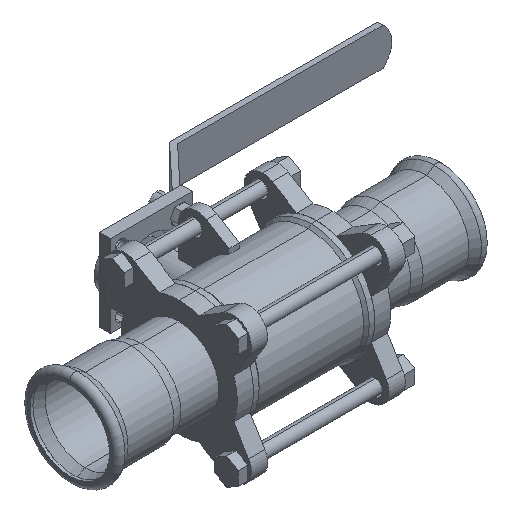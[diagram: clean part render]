
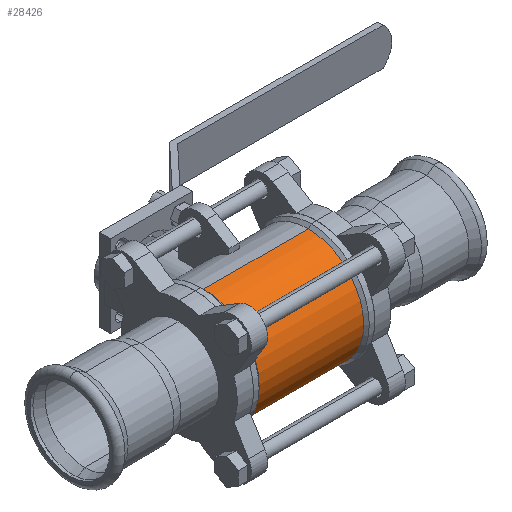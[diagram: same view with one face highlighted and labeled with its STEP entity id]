
A CAD part, isometric view. The second image highlights one B-rep face of the part: STEP entity #28426.
In plain terms, the highlighted cylindrical face has radius 29.65 mm (diameter 59.3 mm), a partial arc.
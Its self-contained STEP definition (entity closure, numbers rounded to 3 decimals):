
#708 = LINE ( 'NONE', #11077, #36738 ) ;
#916 = LINE ( 'NONE', #27312, #25648 ) ;
#1361 = DIRECTION ( 'NONE',  ( -1., 0., 0. ) ) ;
#2628 = DIRECTION ( 'NONE',  ( -1., 0., 0. ) ) ;
#3249 = DIRECTION ( 'NONE',  ( 0., 0., 1. ) ) ;
#5960 = ORIENTED_EDGE ( 'NONE', *, *, #7806, .F. ) ;
#6075 = DIRECTION ( 'NONE',  ( 0., 0., 1. ) ) ;
#6496 = CARTESIAN_POINT ( 'NONE',  ( 0., 0., 0. ) ) ;
#6983 = ORIENTED_EDGE ( 'NONE', *, *, #22141, .F. ) ;
#7328 = VERTEX_POINT ( 'NONE', #13951 ) ;
#7806 = EDGE_CURVE ( 'NONE', #24711, #25876, #708, .T. ) ;
#8066 = DIRECTION ( 'NONE',  ( 0., 0., 1. ) ) ;
#9518 = CARTESIAN_POINT ( 'NONE',  ( 28., 0., 0. ) ) ;
#11077 = CARTESIAN_POINT ( 'NONE',  ( 0., 0., -29.65 ) ) ;
#11279 = DIRECTION ( 'NONE',  ( -1., 0., 0. ) ) ;
#13212 = EDGE_LOOP ( 'NONE', ( #5960, #38470, #39130, #6983 ) ) ;
#13951 = CARTESIAN_POINT ( 'NONE',  ( 28., 0., 29.65 ) ) ;
#15203 = CARTESIAN_POINT ( 'NONE',  ( -28., 0., 0. ) ) ;
#15871 = CARTESIAN_POINT ( 'NONE',  ( 28., 0., -29.65 ) ) ;
#16327 = EDGE_CURVE ( 'NONE', #24711, #7328, #30406, .T. ) ;
#16434 = FACE_OUTER_BOUND ( 'NONE', #13212, .T. ) ;
#17135 = DIRECTION ( 'NONE',  ( -1., 0., 0. ) ) ;
#17592 = CIRCLE ( 'NONE', #18297, 29.65 ) ;
#17789 = EDGE_CURVE ( 'NONE', #7328, #23550, #916, .T. ) ;
#18297 = AXIS2_PLACEMENT_3D ( 'NONE', #15203, #1361, #8066 ) ;
#20497 = AXIS2_PLACEMENT_3D ( 'NONE', #6496, #2628, #3249 ) ;
#22141 = EDGE_CURVE ( 'NONE', #25876, #23550, #17592, .T. ) ;
#23550 = VERTEX_POINT ( 'NONE', #25246 ) ;
#24711 = VERTEX_POINT ( 'NONE', #15871 ) ;
#25246 = CARTESIAN_POINT ( 'NONE',  ( -28., 0., 29.65 ) ) ;
#25648 = VECTOR ( 'NONE', #11279, 1000. ) ;
#25876 = VERTEX_POINT ( 'NONE', #33066 ) ;
#25972 = CYLINDRICAL_SURFACE ( 'NONE', #20497, 29.65 ) ;
#25977 = DIRECTION ( 'NONE',  ( -1., 0., 0. ) ) ;
#27312 = CARTESIAN_POINT ( 'NONE',  ( 0., 0., 29.65 ) ) ;
#28426 = ADVANCED_FACE ( 'NONE', ( #16434 ), #25972, .T. ) ;
#30406 = CIRCLE ( 'NONE', #34497, 29.65 ) ;
#33066 = CARTESIAN_POINT ( 'NONE',  ( -28., 0., -29.65 ) ) ;
#34497 = AXIS2_PLACEMENT_3D ( 'NONE', #9518, #25977, #6075 ) ;
#36738 = VECTOR ( 'NONE', #17135, 1000. ) ;
#38470 = ORIENTED_EDGE ( 'NONE', *, *, #16327, .T. ) ;
#39130 = ORIENTED_EDGE ( 'NONE', *, *, #17789, .T. ) ;
